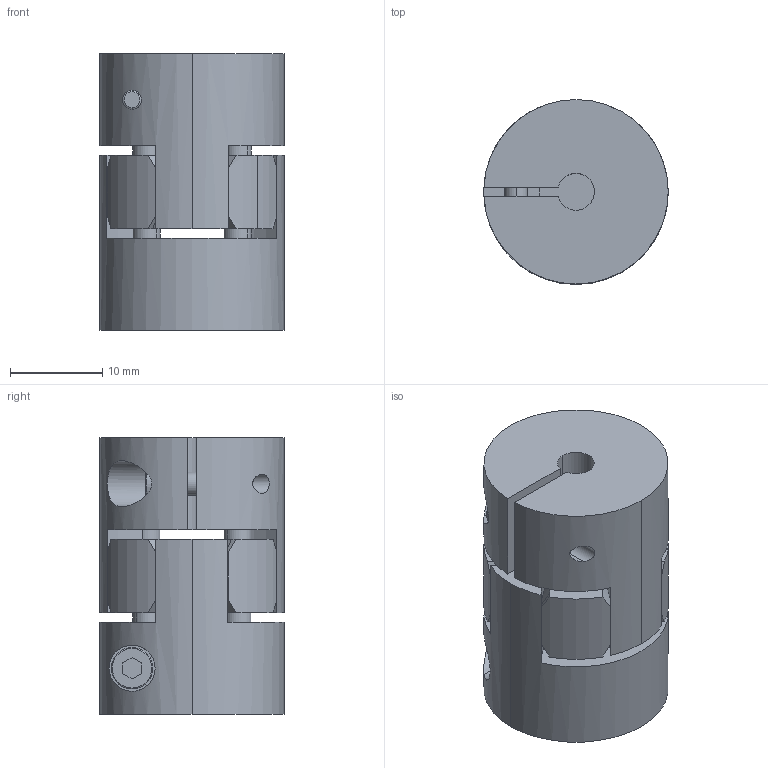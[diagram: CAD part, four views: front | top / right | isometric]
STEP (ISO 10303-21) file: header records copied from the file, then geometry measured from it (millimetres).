
FILE_DESCRIPTION (( 'STEP AP214' ), '1' );
FILE_NAME ('LC-C-020-4B-4B.STEP', '2019-09-12T08:39:49', ( 'admin' ), ( 'Microsoft' ), 'SwSTEP 2.0', 'SolidWorks 2016', '' );
FILE_SCHEMA (( 'AUTOMOTIVE_DESIGN' ));
Length unit declared in the file: millimetre
Products named in the file (1): LC-C-020-4B-4B
Bounding box: 20 x 20 x 30 mm (x, y, z)
Volume: 7985.3 mm3; surface area: 5432.9 mm2
Topology: 5 solids, 5 shells, 157 faces, 385 edges, 252 vertices
Faces by surface type: cylinder 81, plane 44, cone 24, torus 8
Entity records: 6744 total; most frequent: CARTESIAN_POINT 1095, DIRECTION 865, ORIENTED_EDGE 770, EDGE_CURVE 385, AXIS2_PLACEMENT_3D 362, VERTEX_POINT 252, CIRCLE 204, EDGE_LOOP 179
